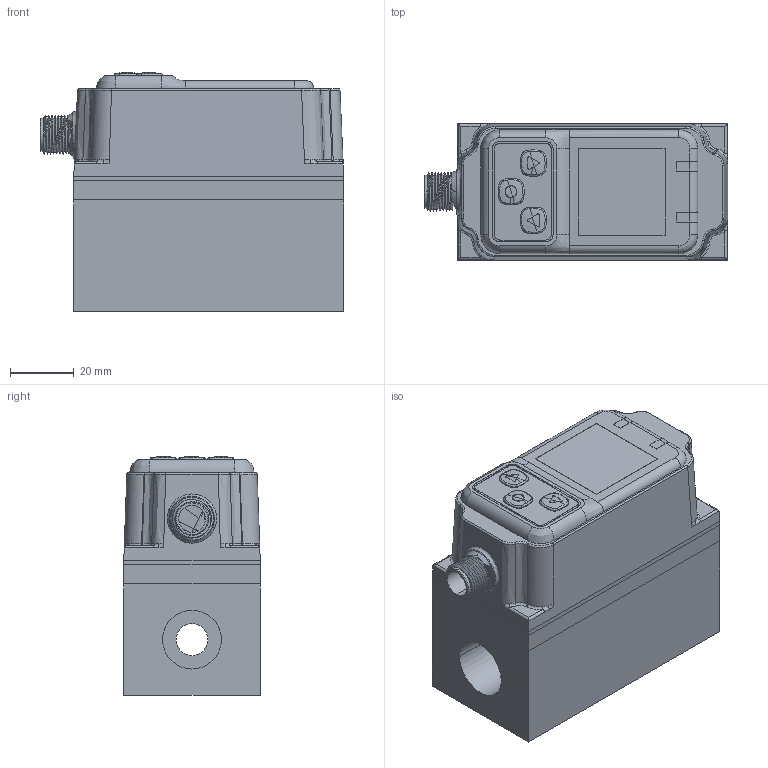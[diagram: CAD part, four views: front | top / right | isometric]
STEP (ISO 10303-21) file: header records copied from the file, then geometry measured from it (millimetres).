
FILE_DESCRIPTION (( 'STEP AP214' ), '1' );
FILE_NAME ('BFW2F10.STEP', '2025-12-15T08:51:03', ( '' ), ( '' ), 'SwSTEP 2.0', 'SolidWorks 2025', '' );
FILE_SCHEMA (( 'AUTOMOTIVE_DESIGN' ));
Length unit declared in the file: millimetre
Products named in the file (6): DN15 本体.STEP; 板子.STEP; 涡轮装配体2025.12最终板.STEP; BFW2F10; BFW2F(2); 涡街流量计上盖外形.STEP
Assembly tree (5 placements, depth 4):
  BFW2F10
    BFW2F(2)
      涡轮装配体2025.12最终板.STEP
        涡街流量计上盖外形.STEP
        板子.STEP
        DN15 本体.STEP
Bounding box: 95.53 x 43 x 75.02 mm (x, y, z)
Volume: 250976.4 mm3; surface area: 48463.3 mm2
Topology: 10 solids, 10 shells, 464 faces, 1195 edges, 768 vertices
Faces by surface type: bspline 228, plane 133, cylinder 95, cone 8
Entity records: 53075 total; most frequent: CARTESIAN_POINT 44668, ORIENTED_EDGE 2364, EDGE_CURVE 1182, B_SPLINE_CURVE_WITH_KNOTS 1115, VERTEX_POINT 768, DIRECTION 546, EDGE_LOOP 496, ADVANCED_FACE 464
